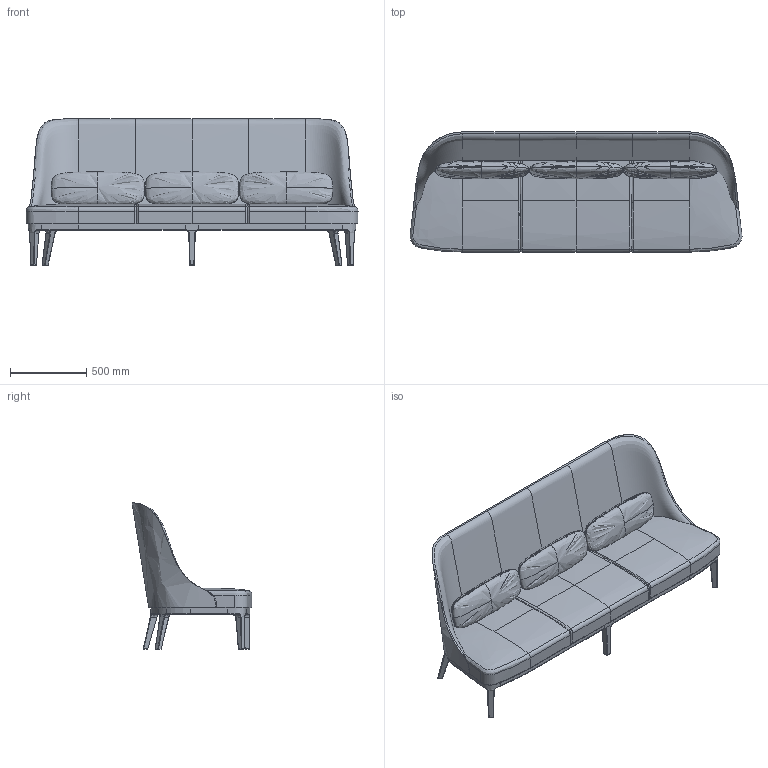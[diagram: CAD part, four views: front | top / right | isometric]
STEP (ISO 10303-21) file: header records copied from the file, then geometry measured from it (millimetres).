
FILE_DESCRIPTION(/* description */ (''),/* implementation_level */ '2;1');
FILE_NAME(/* name */ 'KINOSH~3',/* time_stamp */ '2019-07-19T15:02:03+09:00',/* author */ (''),/* organization */ (''),/* preprocessor_version */ 'ST-DEVELOPER v15',/* originating_system */ '',/* authorisation */ '');
FILE_SCHEMA (('AUTOMOTIVE_DESIGN'));
Length unit declared in the file: millimetre
Products named in the file (1): Document
Bounding box: 2179.89 x 787.57 x 960 mm (x, y, z)
Volume: 195736595.3 mm3; surface area: 12116103.4 mm2
Topology: 19 solids, 39 shells, 354 faces, 830 edges, 508 vertices
Faces by surface type: bspline 264, plane 90
Entity records: 114205 total; most frequent: CARTESIAN_POINT 109337, ORIENTED_EDGE 1550, EDGE_CURVE 806, VERTEX_POINT 508, B_SPLINE_CURVE_WITH_KNOTS 428, ADVANCED_FACE 354, FACE_OUTER_BOUND 354, EDGE_LOOP 354
